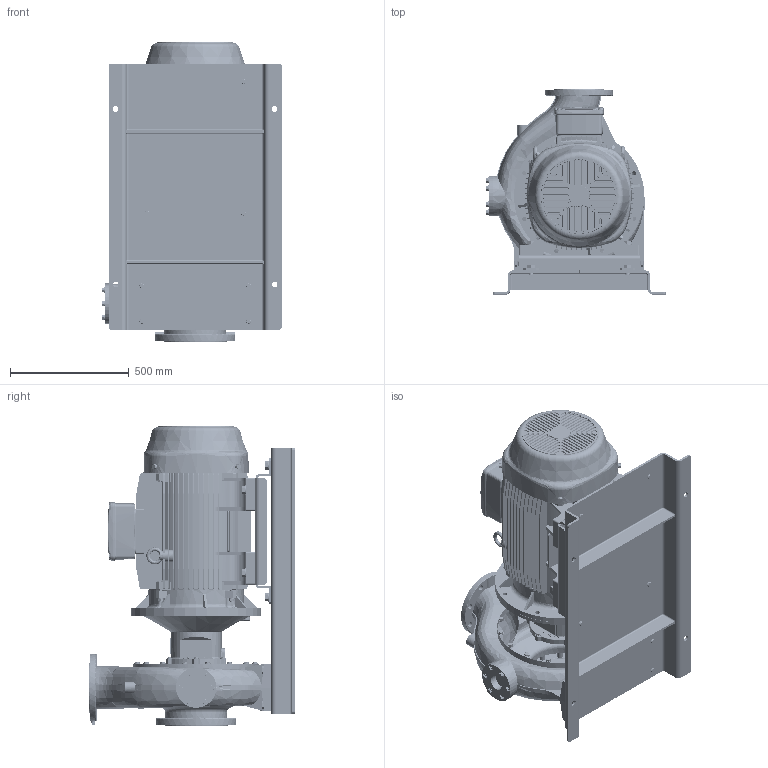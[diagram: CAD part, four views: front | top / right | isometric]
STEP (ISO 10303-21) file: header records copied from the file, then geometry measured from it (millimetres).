
FILE_DESCRIPTION (( 'STEP AP214' ), '1' );
FILE_NAME ('GSD4 150-400_55 & 75_(250SM)_W21.STEP', '2026-07-01T02:29:26', ( '' ), ( '' ), 'SwSTEP 2.0', 'SolidWorks 2024', '' );
FILE_SCHEMA (( 'AUTOMOTIVE_DESIGN' ));
Length unit declared in the file: millimetre
Products named in the file (12): GSD4 150-400_55 & 75_(250SM)_W21; CGS11-5292; 150-400-250S_M_ﾃﾞﾌｫﾙﾄ; Parametric bolt_SFT-A403B; Parametric bolt and washer_SFT-A403B; Parametric bolt_SFT-A399B; 250S_M4P IE3_W21T_B35; Parametric Flat Washer_M20; Parametric bolt and washer_SFT-A411B; Parametric bolt_SFT-A411B; N9S4 GSDA-94G F1-1832984-00; Parametric bolt and washer_SFT-A399B
Assembly tree (22 placements, depth 3):
  GSD4 150-400_55 & 75_(250SM)_W21
    150-400-250S_M_ﾃﾞﾌｫﾙﾄ
    250S_M4P IE3_W21T_B35
    N9S4 GSDA-94G F1-1832984-00
    CGS11-5292
    Parametric bolt and washer_SFT-A403B  x4
      Parametric bolt_SFT-A403B
      Parametric Flat Washer_M20
    Parametric bolt and washer_SFT-A399B  x4
      Parametric bolt_SFT-A399B
      Parametric Flat Washer_M20
    Parametric bolt and washer_SFT-A411B  x4
      Parametric bolt_SFT-A411B
      Parametric Flat Washer_M20
Bounding box: 756.45 x 865 x 1260.5 mm (x, y, z)
Volume: 198318485.2 mm3; surface area: 8876091.7 mm2
Topology: 36 solids, 41 shells, 4555 faces, 11965 edges, 7617 vertices
Faces by surface type: plane 1827, cylinder 1565, cone 551, bspline 321, torus 273, sphere 18
Entity records: 195101 total; most frequent: CARTESIAN_POINT 102492, ORIENTED_EDGE 20312, DIRECTION 18282, EDGE_CURVE 10156, AXIS2_PLACEMENT_3D 6691, VERTEX_POINT 6450, VECTOR 4900, LINE 4900
